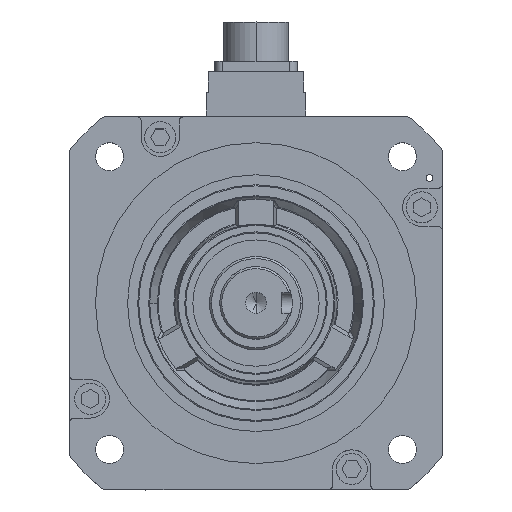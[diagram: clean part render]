
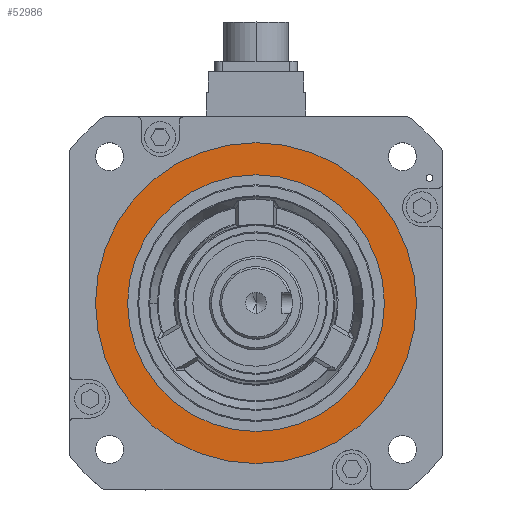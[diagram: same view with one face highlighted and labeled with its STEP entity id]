
A CAD part, top view. The second image highlights one B-rep face of the part: STEP entity #52986.
In plain terms, the highlighted planar face has unit normal (0, 0, 1) as drawn and (0, 0, -1) by its records, which use the part's own axes.
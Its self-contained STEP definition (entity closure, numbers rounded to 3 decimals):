
#982 = ORIENTED_EDGE ( 'NONE', *, *, #58609, .T. ) ;
#3050 = CIRCLE ( 'NONE', #25029, 62. ) ;
#3190 = DIRECTION ( 'NONE',  ( 1., 0., 0. ) ) ;
#4829 = PLANE ( 'NONE',  #22840 ) ;
#5058 = EDGE_CURVE ( 'NONE', #41814, #39516, #14323, .T. ) ;
#7208 = CARTESIAN_POINT ( 'NONE',  ( 62., 0., 3.8 ) ) ;
#8275 = AXIS2_PLACEMENT_3D ( 'NONE', #31038, #53323, #3190 ) ;
#8635 = DIRECTION ( 'NONE',  ( 0., 0., 1. ) ) ;
#8828 = CARTESIAN_POINT ( 'NONE',  ( 0., 0., 3.8 ) ) ;
#10329 = VERTEX_POINT ( 'NONE', #36692 ) ;
#11156 = AXIS2_PLACEMENT_3D ( 'NONE', #8828, #8635, #21905 ) ;
#13532 = CARTESIAN_POINT ( 'NONE',  ( 0., 0., 3.8 ) ) ;
#14323 = CIRCLE ( 'NONE', #11156, 62. ) ;
#17664 = EDGE_CURVE ( 'NONE', #10329, #24840, #37558, .T. ) ;
#20202 = ORIENTED_EDGE ( 'NONE', *, *, #17664, .F. ) ;
#21905 = DIRECTION ( 'NONE',  ( 1., 0., 0. ) ) ;
#22289 = CARTESIAN_POINT ( 'NONE',  ( 0., 0., 3.8 ) ) ;
#22699 = DIRECTION ( 'NONE',  ( 1., 0., 0. ) ) ;
#22840 = AXIS2_PLACEMENT_3D ( 'NONE', #27038, #31920, #40698 ) ;
#24485 = AXIS2_PLACEMENT_3D ( 'NONE', #13532, #27986, #50236 ) ;
#24633 = CIRCLE ( 'NONE', #8275, 77.5 ) ;
#24713 = CARTESIAN_POINT ( 'NONE',  ( -62., 0., 3.8 ) ) ;
#24840 = VERTEX_POINT ( 'NONE', #57443 ) ;
#25029 = AXIS2_PLACEMENT_3D ( 'NONE', #22289, #54431, #22699 ) ;
#27038 = CARTESIAN_POINT ( 'NONE',  ( 0., 62., 3.8 ) ) ;
#27986 = DIRECTION ( 'NONE',  ( 0., 0., 1. ) ) ;
#28066 = EDGE_CURVE ( 'NONE', #24840, #10329, #24633, .T. ) ;
#29227 = FACE_OUTER_BOUND ( 'NONE', #57457, .T. ) ;
#31038 = CARTESIAN_POINT ( 'NONE',  ( 0., 0., 3.8 ) ) ;
#31920 = DIRECTION ( 'NONE',  ( 0., 0., -1. ) ) ;
#36692 = CARTESIAN_POINT ( 'NONE',  ( 77.5, 0., 3.8 ) ) ;
#37507 = EDGE_LOOP ( 'NONE', ( #50259, #982 ) ) ;
#37558 = CIRCLE ( 'NONE', #24485, 77.5 ) ;
#39516 = VERTEX_POINT ( 'NONE', #24713 ) ;
#40698 = DIRECTION ( 'NONE',  ( -1., 0., 0. ) ) ;
#41293 = FACE_BOUND ( 'NONE', #37507, .T. ) ;
#41814 = VERTEX_POINT ( 'NONE', #7208 ) ;
#50236 = DIRECTION ( 'NONE',  ( 1., 0., 0. ) ) ;
#50259 = ORIENTED_EDGE ( 'NONE', *, *, #5058, .T. ) ;
#52732 = ORIENTED_EDGE ( 'NONE', *, *, #28066, .F. ) ;
#52986 = ADVANCED_FACE ( 'NONE', ( #41293, #29227 ), #4829, .T. ) ;
#53323 = DIRECTION ( 'NONE',  ( 0., 0., 1. ) ) ;
#54431 = DIRECTION ( 'NONE',  ( 0., 0., 1. ) ) ;
#57443 = CARTESIAN_POINT ( 'NONE',  ( -77.5, 0., 3.8 ) ) ;
#57457 = EDGE_LOOP ( 'NONE', ( #20202, #52732 ) ) ;
#58609 = EDGE_CURVE ( 'NONE', #39516, #41814, #3050, .T. ) ;
